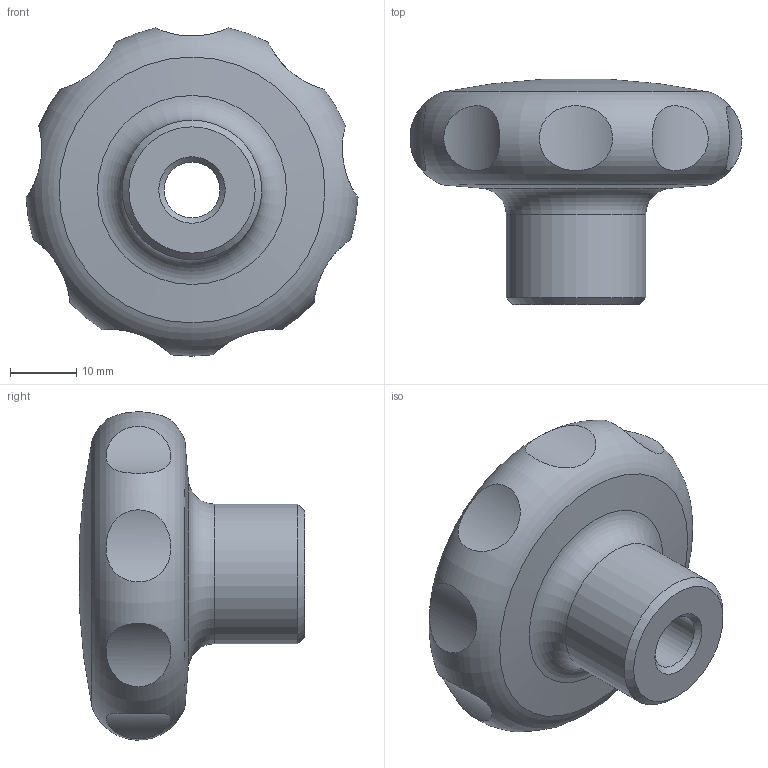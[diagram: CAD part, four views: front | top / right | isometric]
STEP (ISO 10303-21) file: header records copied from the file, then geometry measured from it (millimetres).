
FILE_DESCRIPTION( ( 'STEP AP203' ), '1' );
FILE_NAME( 'C:/Temp/Ganter_Step_05_03_2020/data/2_2/gn_5335/gn_5335_ni_d/Stainless steel-Star knob GN 5335-50-M10-D.stp', '2020-03-05T12:10:24', ( 'License CC BY-ND 4.0' ), ( 'CADENAS' ), ' ', 'PARTsolutions', ' ' );
FILE_SCHEMA( ( 'CONFIG_CONTROL_DESIGN' ) );
Length unit declared in the file: millimetre
Products named in the file (1): _Stainless steel-Star knob GN 5335-50-M10-D
Bounding box: 49.94 x 33.88 x 49.38 mm (x, y, z)
Volume: 29635.4 mm3; surface area: 7027.5 mm2
Topology: 1 solids, 1 shells, 20 faces, 30 edges, 20 vertices
Faces by surface type: cylinder 12, cone 3, torus 2, sphere 2, plane 1
Full cylindrical faces by diameter (mm): 8.376 x1, 10 x1, 21 x1
Entity records: 1164 total; most frequent: CARTESIAN_POINT 797, DIRECTION 64, EDGE_LOOP 40, ORIENTED_EDGE 40, AXIS2_PLACEMENT_3D 32, FACE_OUTER_BOUND 27, VERTEX_POINT 21, ADVANCED_FACE 20
